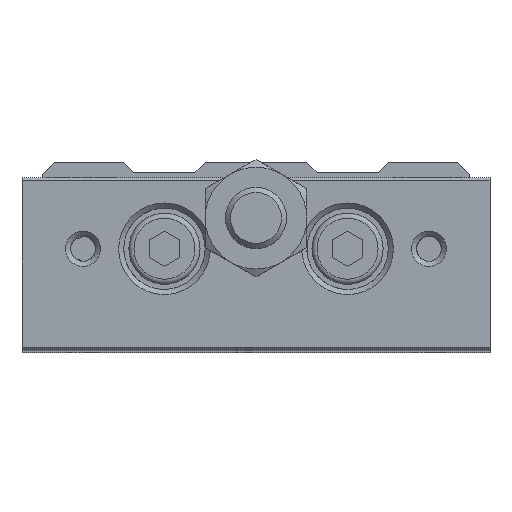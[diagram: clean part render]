
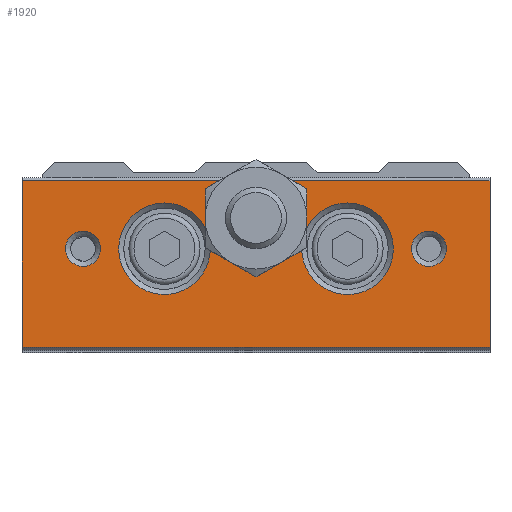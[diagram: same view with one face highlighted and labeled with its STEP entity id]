
A CAD part, top view. The second image highlights one B-rep face of the part: STEP entity #1920.
In plain terms, the highlighted planar face has unit normal (0, 0, 1).
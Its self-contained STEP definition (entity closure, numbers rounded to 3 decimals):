
#1766=CARTESIAN_POINT('',(-15.271,0.,82.));
#1767=VERTEX_POINT('',#1766);
#1768=CARTESIAN_POINT('',(-17.0,0.,82.));
#1769=DIRECTION('',(0.0,0.0,1.0));
#1770=DIRECTION('',(-1.0,0.0,0.0));
#1771=AXIS2_PLACEMENT_3D('',#1768,#1769,#1770);
#1772=CIRCLE('',#1771,1.73);
#1773=EDGE_CURVE('',#1767,#1767,#1772,.T.);
#1778=CARTESIAN_POINT('',(0.0,-10.,82.));
#1779=DIRECTION('',(0.0,0.0,1.0));
#1780=DIRECTION('',(1.0,0.0,0.0));
#1781=AXIS2_PLACEMENT_3D('',#1778,#1779,#1780);
#1782=PLANE('',#1781);
#1783=CARTESIAN_POINT('',(-4.816,1.658,82.));
#1784=VERTEX_POINT('',#1783);
#1785=CARTESIAN_POINT('',(-4.659,1.184,82.));
#1786=VERTEX_POINT('',#1785);
#1787=CARTESIAN_POINT('',(-9.,0.,82.));
#1788=DIRECTION('',(0.0,0.0,1.0));
#1789=DIRECTION('',(-1.0,0.0,0.0));
#1790=AXIS2_PLACEMENT_3D('',#1787,#1788,#1789);
#1791=CIRCLE('',#1790,4.5);
#1792=EDGE_CURVE('',#1784,#1786,#1791,.T.);
#1793=ORIENTED_EDGE('',*,*,#1792,.F.);
#1794=CARTESIAN_POINT('',(-5.0,3.,82.));
#1795=VERTEX_POINT('',#1794);
#1796=CARTESIAN_POINT('',(0.0,3.,82.));
#1797=DIRECTION('',(0.0,0.0,1.0));
#1798=DIRECTION('',(0.0,1.0,0.0));
#1799=AXIS2_PLACEMENT_3D('',#1796,#1797,#1798);
#1800=CIRCLE('',#1799,5.0);
#1801=EDGE_CURVE('',#1795,#1784,#1800,.T.);
#1802=ORIENTED_EDGE('',*,*,#1801,.F.);
#1803=CARTESIAN_POINT('',(-3.363,6.7,82.));
#1804=VERTEX_POINT('',#1803);
#1805=CARTESIAN_POINT('',(0.0,3.,82.));
#1806=DIRECTION('',(0.0,0.0,1.0));
#1807=DIRECTION('',(0.0,1.0,0.0));
#1808=AXIS2_PLACEMENT_3D('',#1805,#1806,#1807);
#1809=CIRCLE('',#1808,5.0);
#1810=EDGE_CURVE('',#1804,#1795,#1809,.T.);
#1811=ORIENTED_EDGE('',*,*,#1810,.F.);
#1812=CARTESIAN_POINT('',(-23.,6.7,82.));
#1813=VERTEX_POINT('',#1812);
#1814=CARTESIAN_POINT('',(-23.,6.7,82.));
#1815=DIRECTION('',(1.0,0.0,0.0));
#1816=VECTOR('',#1815,19.637);
#1817=LINE('',#1814,#1816);
#1818=EDGE_CURVE('',#1813,#1804,#1817,.T.);
#1819=ORIENTED_EDGE('',*,*,#1818,.F.);
#1820=CARTESIAN_POINT('',(-23.,-9.7,82.));
#1821=VERTEX_POINT('',#1820);
#1822=CARTESIAN_POINT('',(-23.,6.7,82.));
#1823=DIRECTION('',(0.0,-1.0,0.0));
#1824=VECTOR('',#1823,16.4);
#1825=LINE('',#1822,#1824);
#1826=EDGE_CURVE('',#1813,#1821,#1825,.T.);
#1827=ORIENTED_EDGE('',*,*,#1826,.T.);
#1828=CARTESIAN_POINT('',(23.,-9.7,82.));
#1829=VERTEX_POINT('',#1828);
#1830=CARTESIAN_POINT('',(23.,-9.7,82.));
#1831=DIRECTION('',(-1.0,0.0,0.0));
#1832=VECTOR('',#1831,46.);
#1833=LINE('',#1830,#1832);
#1834=EDGE_CURVE('',#1829,#1821,#1833,.T.);
#1835=ORIENTED_EDGE('',*,*,#1834,.F.);
#1836=CARTESIAN_POINT('',(23.,6.7,82.));
#1837=VERTEX_POINT('',#1836);
#1838=CARTESIAN_POINT('',(23.,-9.7,82.));
#1839=DIRECTION('',(0.0,1.0,0.0));
#1840=VECTOR('',#1839,16.4);
#1841=LINE('',#1838,#1840);
#1842=EDGE_CURVE('',#1829,#1837,#1841,.T.);
#1843=ORIENTED_EDGE('',*,*,#1842,.T.);
#1844=CARTESIAN_POINT('',(3.363,6.7,82.));
#1845=VERTEX_POINT('',#1844);
#1846=CARTESIAN_POINT('',(3.363,6.7,82.));
#1847=DIRECTION('',(1.0,0.0,0.0));
#1848=VECTOR('',#1847,19.637);
#1849=LINE('',#1846,#1848);
#1850=EDGE_CURVE('',#1845,#1837,#1849,.T.);
#1851=ORIENTED_EDGE('',*,*,#1850,.F.);
#1852=CARTESIAN_POINT('',(5.,3.,82.));
#1853=VERTEX_POINT('',#1852);
#1854=CARTESIAN_POINT('',(0.0,3.,82.));
#1855=DIRECTION('',(0.0,0.0,1.0));
#1856=DIRECTION('',(0.0,1.0,0.0));
#1857=AXIS2_PLACEMENT_3D('',#1854,#1855,#1856);
#1858=CIRCLE('',#1857,5.0);
#1859=EDGE_CURVE('',#1853,#1845,#1858,.T.);
#1860=ORIENTED_EDGE('',*,*,#1859,.F.);
#1861=CARTESIAN_POINT('',(4.816,1.658,82.));
#1862=VERTEX_POINT('',#1861);
#1863=CARTESIAN_POINT('',(0.0,3.,82.));
#1864=DIRECTION('',(0.0,0.0,1.0));
#1865=DIRECTION('',(0.0,1.0,0.0));
#1866=AXIS2_PLACEMENT_3D('',#1863,#1864,#1865);
#1867=CIRCLE('',#1866,5.0);
#1868=EDGE_CURVE('',#1862,#1853,#1867,.T.);
#1869=ORIENTED_EDGE('',*,*,#1868,.F.);
#1870=CARTESIAN_POINT('',(4.659,1.184,82.));
#1871=VERTEX_POINT('',#1870);
#1872=CARTESIAN_POINT('',(9.0,0.,82.));
#1873=DIRECTION('',(0.0,0.0,1.0));
#1874=DIRECTION('',(-1.0,0.0,0.0));
#1875=AXIS2_PLACEMENT_3D('',#1872,#1873,#1874);
#1876=CIRCLE('',#1875,4.5);
#1877=EDGE_CURVE('',#1871,#1862,#1876,.T.);
#1878=ORIENTED_EDGE('',*,*,#1877,.F.);
#1879=CARTESIAN_POINT('',(2.5,-1.33,82.));
#1880=VERTEX_POINT('',#1879);
#1881=CARTESIAN_POINT('',(0.0,3.,82.));
#1882=DIRECTION('',(0.0,0.0,1.0));
#1883=DIRECTION('',(0.0,1.0,0.0));
#1884=AXIS2_PLACEMENT_3D('',#1881,#1882,#1883);
#1885=CIRCLE('',#1884,5.0);
#1886=EDGE_CURVE('',#1880,#1871,#1885,.T.);
#1887=ORIENTED_EDGE('',*,*,#1886,.F.);
#1888=CARTESIAN_POINT('',(-2.5,-1.33,82.));
#1889=VERTEX_POINT('',#1888);
#1890=CARTESIAN_POINT('',(0.0,3.,82.));
#1891=DIRECTION('',(0.0,0.0,1.0));
#1892=DIRECTION('',(0.0,1.0,0.0));
#1893=AXIS2_PLACEMENT_3D('',#1890,#1891,#1892);
#1894=CIRCLE('',#1893,5.0);
#1895=EDGE_CURVE('',#1889,#1880,#1894,.T.);
#1896=ORIENTED_EDGE('',*,*,#1895,.F.);
#1897=CARTESIAN_POINT('',(0.0,3.,82.));
#1898=DIRECTION('',(0.0,0.0,1.0));
#1899=DIRECTION('',(0.0,1.0,0.0));
#1900=AXIS2_PLACEMENT_3D('',#1897,#1898,#1899);
#1901=CIRCLE('',#1900,5.0);
#1902=EDGE_CURVE('',#1786,#1889,#1901,.T.);
#1903=ORIENTED_EDGE('',*,*,#1902,.F.);
#1904=EDGE_LOOP('',(#1793,#1802,#1811,#1819,#1827,#1835,#1843,#1851,#1860,#1869,#1878,#1887,#1896,#1903));
#1905=FACE_OUTER_BOUND('',#1904,.T.);
#1906=CARTESIAN_POINT('',(18.729,0.,82.));
#1907=VERTEX_POINT('',#1906);
#1908=CARTESIAN_POINT('',(17.,0.,82.));
#1909=DIRECTION('',(0.0,0.0,1.0));
#1910=DIRECTION('',(-1.0,0.0,0.0));
#1911=AXIS2_PLACEMENT_3D('',#1908,#1909,#1910);
#1912=CIRCLE('',#1911,1.73);
#1913=EDGE_CURVE('',#1907,#1907,#1912,.T.);
#1914=ORIENTED_EDGE('',*,*,#1913,.F.);
#1915=EDGE_LOOP('',(#1914));
#1916=FACE_BOUND('',#1915,.T.);
#1917=ORIENTED_EDGE('',*,*,#1773,.F.);
#1918=EDGE_LOOP('',(#1917));
#1919=FACE_BOUND('',#1918,.T.);
#1920=ADVANCED_FACE('',(#1905,#1916,#1919),#1782,.T.);
